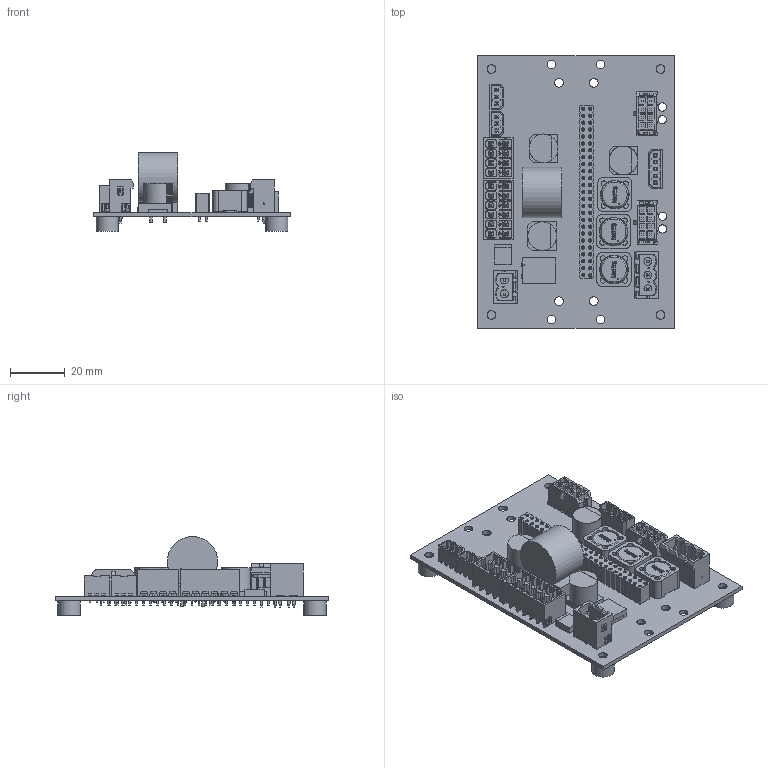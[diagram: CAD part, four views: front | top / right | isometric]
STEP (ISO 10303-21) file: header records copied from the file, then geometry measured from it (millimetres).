
FILE_DESCRIPTION(/* description */ (''),/* implementation_level */ '2;1');
FILE_NAME(/* name */ '6500.01715_MB1_MC5004_STO_Vertival.stp',/* time_stamp */ '2018-09-06T12:34:20+02:00',/* author */ ('DR. FRITZ FAULHABER GmbH & Co. KG'),/* organization */ ('DR. FRITZ FAULHABER GmbH & Co. KG'),/* preprocessor_version */ 'ST-DEVELOPER v16.7',/* originating_system */ 'SIEMENS PLM Software NX 12.0',/* authorisation */ '');
FILE_SCHEMA (('AUTOMOTIVE_DESIGN { 1 0 10303 214 3 1 1 1 }'));
Length unit declared in the file: millimetre
Products named in the file (1): Alle_Controller_Platinen
Bounding box: 72 x 100 x 28.92 mm (x, y, z)
Volume: 30488.5 mm3; surface area: 35511.5 mm2
Topology: 1 solids, 1 shells, 5378 faces, 14810 edges, 9672 vertices
Faces by surface type: plane 4225, cylinder 868, cone 222, extrusion 33, bspline 18, torus 12
Full cylindrical faces by diameter (mm): 0.434 x2, 0.457 x2, 0.5 x3, 0.53 x12, 0.6 x100, 0.8 x14, 0.86 x4, 0.9 x46, 1 x4, 1.1 x4, 1.2 x61, 1.3 x4, 1.4 x25, 2.8 x3, 3 x4, 3.2 x12, 5.75 x3, 8.179 x4, 10 x3, 10.5 x1
Entity records: 171917 total; most frequent: CARTESIAN_POINT 35959, ORIENTED_EDGE 28320, DIRECTION 26881, EDGE_CURVE 14160, VECTOR 11653, LINE 11620, VERTEX_POINT 9475, AXIS2_PLACEMENT_3D 7614
